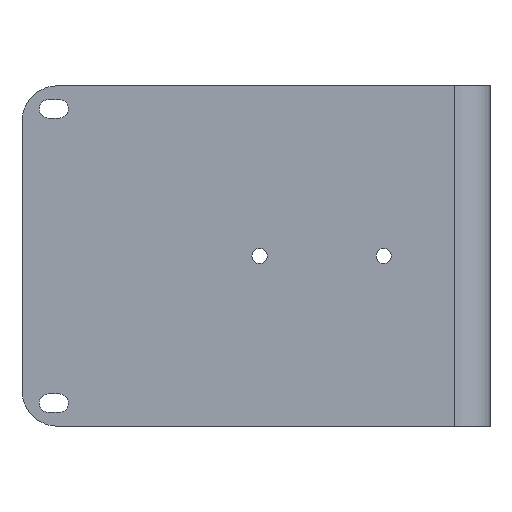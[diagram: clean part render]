
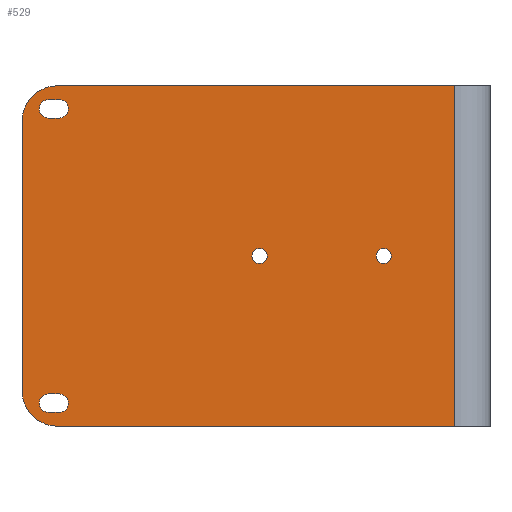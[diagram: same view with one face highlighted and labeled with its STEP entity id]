
A CAD part, left-side view. The second image highlights one B-rep face of the part: STEP entity #529.
In plain terms, the highlighted planar face has unit normal (-1, 0, 0).
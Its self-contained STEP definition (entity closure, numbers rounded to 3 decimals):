
#19=FACE_BOUND('',#88,.T.);
#20=FACE_BOUND('',#89,.T.);
#21=FACE_BOUND('',#90,.T.);
#22=FACE_BOUND('',#91,.T.);
#40=PLANE('',#587);
#55=FACE_OUTER_BOUND('',#87,.T.);
#87=EDGE_LOOP('',(#393,#394,#395,#396,#397,#398));
#88=EDGE_LOOP('',(#399,#400,#401,#402));
#89=EDGE_LOOP('',(#403,#404,#405,#406));
#90=EDGE_LOOP('',(#407));
#91=EDGE_LOOP('',(#408));
#138=LINE('',#840,#178);
#141=LINE('',#846,#181);
#142=LINE('',#848,#182);
#143=LINE('',#850,#183);
#144=LINE('',#854,#184);
#145=LINE('',#858,#185);
#146=LINE('',#862,#186);
#147=LINE('',#866,#187);
#178=VECTOR('',#676,10.);
#181=VECTOR('',#681,10.);
#182=VECTOR('',#682,10.);
#183=VECTOR('',#683,10.);
#184=VECTOR('',#686,10.);
#185=VECTOR('',#689,10.);
#186=VECTOR('',#692,10.);
#187=VECTOR('',#695,10.);
#215=CIRCLE('',#584,10.);
#217=CIRCLE('',#588,10.);
#218=CIRCLE('',#589,2.6);
#219=CIRCLE('',#590,2.6);
#220=CIRCLE('',#591,2.6);
#221=CIRCLE('',#592,2.6);
#222=CIRCLE('',#593,2.15);
#223=CIRCLE('',#594,2.15);
#253=VERTEX_POINT('',#830);
#254=VERTEX_POINT('',#831);
#257=VERTEX_POINT('',#839);
#259=VERTEX_POINT('',#845);
#260=VERTEX_POINT('',#847);
#261=VERTEX_POINT('',#849);
#262=VERTEX_POINT('',#852);
#263=VERTEX_POINT('',#853);
#264=VERTEX_POINT('',#855);
#265=VERTEX_POINT('',#857);
#266=VERTEX_POINT('',#860);
#267=VERTEX_POINT('',#861);
#268=VERTEX_POINT('',#863);
#269=VERTEX_POINT('',#865);
#270=VERTEX_POINT('',#868);
#271=VERTEX_POINT('',#870);
#308=EDGE_CURVE('',#253,#254,#215,.T.);
#312=EDGE_CURVE('',#254,#257,#138,.T.);
#315=EDGE_CURVE('',#253,#259,#141,.T.);
#316=EDGE_CURVE('',#259,#260,#142,.T.);
#317=EDGE_CURVE('',#260,#261,#143,.T.);
#318=EDGE_CURVE('',#257,#261,#217,.T.);
#319=EDGE_CURVE('',#262,#263,#144,.T.);
#320=EDGE_CURVE('',#263,#264,#218,.T.);
#321=EDGE_CURVE('',#264,#265,#145,.T.);
#322=EDGE_CURVE('',#265,#262,#219,.T.);
#323=EDGE_CURVE('',#266,#267,#146,.T.);
#324=EDGE_CURVE('',#267,#268,#220,.T.);
#325=EDGE_CURVE('',#268,#269,#147,.T.);
#326=EDGE_CURVE('',#269,#266,#221,.T.);
#327=EDGE_CURVE('',#270,#270,#222,.T.);
#328=EDGE_CURVE('',#271,#271,#223,.T.);
#393=ORIENTED_EDGE('',*,*,#308,.F.);
#394=ORIENTED_EDGE('',*,*,#315,.T.);
#395=ORIENTED_EDGE('',*,*,#316,.T.);
#396=ORIENTED_EDGE('',*,*,#317,.T.);
#397=ORIENTED_EDGE('',*,*,#318,.F.);
#398=ORIENTED_EDGE('',*,*,#312,.F.);
#399=ORIENTED_EDGE('',*,*,#319,.T.);
#400=ORIENTED_EDGE('',*,*,#320,.T.);
#401=ORIENTED_EDGE('',*,*,#321,.T.);
#402=ORIENTED_EDGE('',*,*,#322,.T.);
#403=ORIENTED_EDGE('',*,*,#323,.T.);
#404=ORIENTED_EDGE('',*,*,#324,.T.);
#405=ORIENTED_EDGE('',*,*,#325,.T.);
#406=ORIENTED_EDGE('',*,*,#326,.T.);
#407=ORIENTED_EDGE('',*,*,#327,.T.);
#408=ORIENTED_EDGE('',*,*,#328,.T.);
#529=ADVANCED_FACE('',(#55,#19,#20,#21,#22),#40,.T.);
#584=AXIS2_PLACEMENT_3D('',#832,#668,#669);
#587=AXIS2_PLACEMENT_3D('',#844,#679,#680);
#588=AXIS2_PLACEMENT_3D('',#851,#684,#685);
#589=AXIS2_PLACEMENT_3D('',#856,#687,#688);
#590=AXIS2_PLACEMENT_3D('',#859,#690,#691);
#591=AXIS2_PLACEMENT_3D('',#864,#693,#694);
#592=AXIS2_PLACEMENT_3D('',#867,#696,#697);
#593=AXIS2_PLACEMENT_3D('',#869,#698,#699);
#594=AXIS2_PLACEMENT_3D('',#871,#700,#701);
#668=DIRECTION('center_axis',(1.,0.,0.));
#669=DIRECTION('ref_axis',(0.,0.707,-0.707));
#676=DIRECTION('',(0.,0.,1.));
#679=DIRECTION('center_axis',(-1.,0.,0.));
#680=DIRECTION('ref_axis',(0.,-1.,0.));
#681=DIRECTION('',(0.,-1.,0.));
#682=DIRECTION('',(0.,0.,1.));
#683=DIRECTION('',(0.,1.,0.));
#684=DIRECTION('center_axis',(1.,0.,0.));
#685=DIRECTION('ref_axis',(0.,0.707,0.707));
#686=DIRECTION('',(0.,-1.,0.));
#687=DIRECTION('center_axis',(1.,0.,0.));
#688=DIRECTION('ref_axis',(0.,0.,1.));
#689=DIRECTION('',(0.,1.,0.));
#690=DIRECTION('center_axis',(1.,0.,0.));
#691=DIRECTION('ref_axis',(0.,0.,-1.));
#692=DIRECTION('',(0.,-1.,0.));
#693=DIRECTION('center_axis',(1.,0.,0.));
#694=DIRECTION('ref_axis',(0.,0.,1.));
#695=DIRECTION('',(0.,1.,0.));
#696=DIRECTION('center_axis',(1.,0.,0.));
#697=DIRECTION('ref_axis',(0.,0.,-1.));
#698=DIRECTION('center_axis',(1.,0.,0.));
#699=DIRECTION('ref_axis',(0.,0.,-1.));
#700=DIRECTION('center_axis',(1.,0.,0.));
#701=DIRECTION('ref_axis',(0.,0.,-1.));
#830=CARTESIAN_POINT('',(20.,189.55,-377.45));
#831=CARTESIAN_POINT('',(20.,199.55,-367.45));
#832=CARTESIAN_POINT('Origin',(20.,189.55,-367.45));
#839=CARTESIAN_POINT('',(20.,199.55,-291.45));
#840=CARTESIAN_POINT('',(20.,199.55,-377.45));
#844=CARTESIAN_POINT('Origin',(20.,199.55,-377.45));
#845=CARTESIAN_POINT('',(20.,77.55,-377.45));
#846=CARTESIAN_POINT('',(20.,199.55,-377.45));
#847=CARTESIAN_POINT('',(20.,77.55,-281.45));
#848=CARTESIAN_POINT('',(20.,77.55,-377.45));
#849=CARTESIAN_POINT('',(20.,189.55,-281.45));
#850=CARTESIAN_POINT('',(20.,166.55,-281.45));
#851=CARTESIAN_POINT('Origin',(20.,189.55,-291.45));
#852=CARTESIAN_POINT('',(20.,192.05,-285.35));
#853=CARTESIAN_POINT('',(20.,189.05,-285.35));
#854=CARTESIAN_POINT('',(20.,194.3,-285.35));
#855=CARTESIAN_POINT('',(20.,189.05,-290.55));
#856=CARTESIAN_POINT('Origin',(20.,189.05,-287.95));
#857=CARTESIAN_POINT('',(20.,192.05,-290.55));
#858=CARTESIAN_POINT('',(20.,195.8,-290.55));
#859=CARTESIAN_POINT('Origin',(20.,192.05,-287.95));
#860=CARTESIAN_POINT('',(20.,192.05,-368.35));
#861=CARTESIAN_POINT('',(20.,189.05,-368.35));
#862=CARTESIAN_POINT('',(20.,194.3,-368.35));
#863=CARTESIAN_POINT('',(20.,189.05,-373.55));
#864=CARTESIAN_POINT('Origin',(20.,189.05,-370.95));
#865=CARTESIAN_POINT('',(20.,192.05,-373.55));
#866=CARTESIAN_POINT('',(20.,195.8,-373.55));
#867=CARTESIAN_POINT('Origin',(20.,192.05,-370.95));
#868=CARTESIAN_POINT('',(20.,132.55,-327.3));
#869=CARTESIAN_POINT('Origin',(20.,132.55,-329.45));
#870=CARTESIAN_POINT('',(20.,97.55,-327.3));
#871=CARTESIAN_POINT('Origin',(20.,97.55,-329.45));
